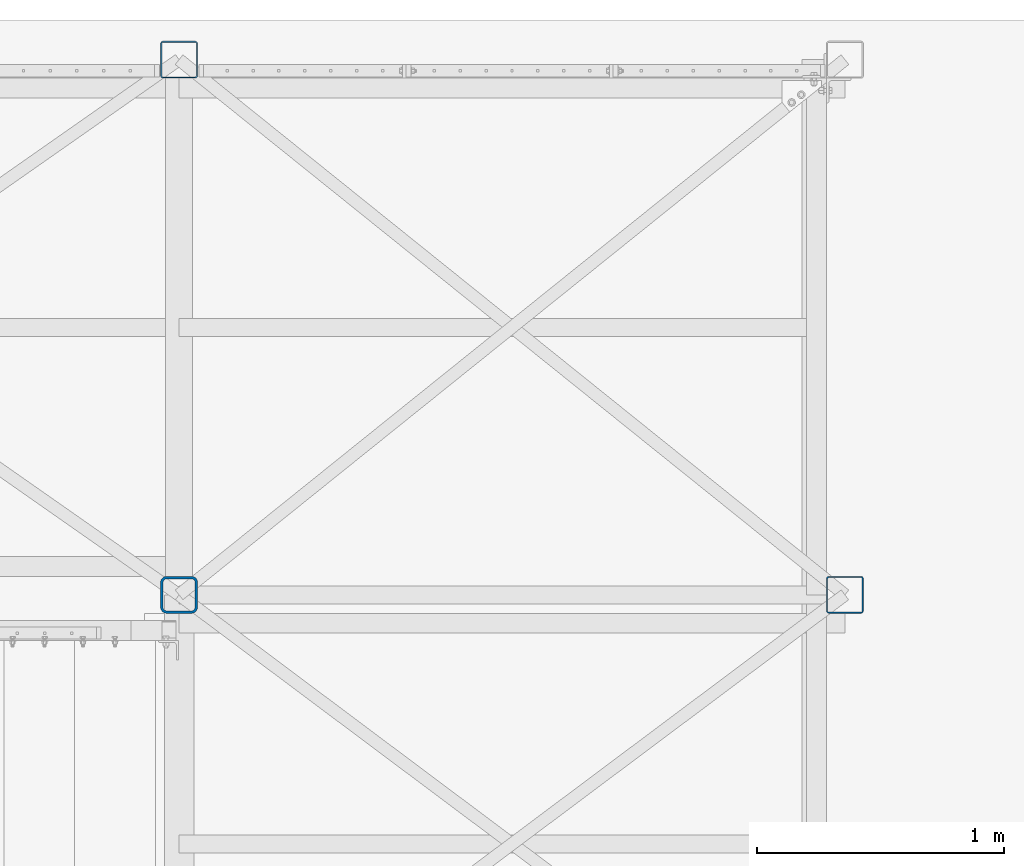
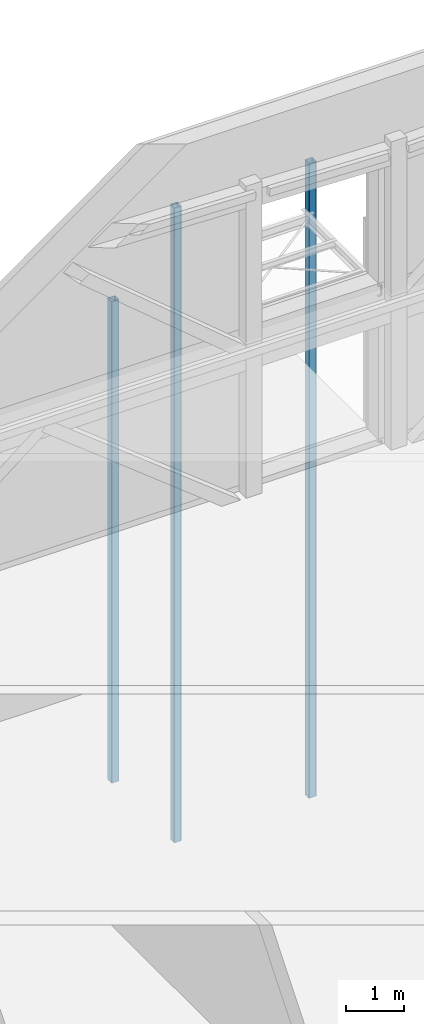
# One storey, part 12 of 78: 3 columns, 3 elements without a shape of their own.
"""IFC2X3 building model written with IfcOpenShell, lengths in millimetres."""

from ifc_helpers import new_model, si_unit, frame, origin_with_axes, origin_2d_with_axis, place, context, subcontext, project, spatial, hollow_rectangle, extrude, material, type_object, element, aggregate, save


model = new_model("IFC2X3")

# Units and contexts
model_context = context("Model", 3, precision=1e-05, world=origin_with_axes())
body_context = subcontext(model_context, "Body", "Model", "MODEL_VIEW")
ifc_project = project(units=[si_unit("LENGTHUNIT", "METRE", prefix="MILLI"), si_unit("AREAUNIT", "SQUARE_METRE"), si_unit("VOLUMEUNIT", "CUBIC_METRE"), si_unit("MASSUNIT", "GRAM", prefix="KILO"), si_unit("TIMEUNIT", "SECOND"), si_unit("PLANEANGLEUNIT", "RADIAN"), si_unit("SOLIDANGLEUNIT", "STERADIAN"), si_unit("THERMODYNAMICTEMPERATUREUNIT", "DEGREE_CELSIUS"), si_unit("LUMINOUSINTENSITYUNIT", "LUMEN")], contexts=[model_context])

# Site, building, storey
site_placement = place(None, origin_with_axes())
site = spatial("IfcSite", under=ifc_project, at=site_placement, Name="Site", CompositionType="ELEMENT")
building_placement = place(site_placement, origin_with_axes())
building = spatial("IfcBuilding", under=site, at=building_placement, Name="Undefined", CompositionType="ELEMENT")
storey_placement = place(building_placement, origin_with_axes())
storey = spatial("IfcBuildingStorey", under=building, at=storey_placement, Name="Undefined", CompositionType="ELEMENT", Elevation=0.0)

# Assembly, column
assembly_1_placement = place(storey_placement, origin_with_axes())
assembly_1 = element("IfcElementAssembly", 1, at=assembly_1_placement, inside=storey, Name="POTEAU", AssemblyPlace="NOTDEFINED", PredefinedType="RIGID_FRAME")
ifc_material = material(Name="STEEL/S275JR")
column_type_1 = type_object("IfcColumnType", Name="TUBE-C-150*150*5", PredefinedType="NOTDEFINED")
column_1_placement = place(assembly_1_placement, frame((4198.57, 30748.0, 147550.04), z_axis=(0.0, 0.0, 1.0), x_axis=(0.0, 1.0, 0.0)))
column_1 = element("IfcColumn", 2, at=column_1_placement, type_object=column_type_1, material=ifc_material, Name="POTEAU", ObjectType="TUBE-C-150*150*5", context=body_context, shape_type="SweptSolid", body=[
    extrude(hollow_rectangle(XDim=150.0, YDim=150.0, WallThickness=5.0, InnerFilletRadius=5.0, OuterFilletRadius=10.0, at=origin_2d_with_axis()), frame((0.0, 0.0, 13450.0), z_axis=(0.0, 0.0, -1.0), x_axis=(0.0, 1.0, 0.0)), (0.0, 0.0, 1.0), 13450.0),
])
aggregate(assembly_1, [column_1])

assembly_2_placement = place(storey_placement, origin_with_axes())
assembly_2 = element("IfcElementAssembly", 3, at=assembly_2_placement, inside=storey, Name="POTEAU", AssemblyPlace="NOTDEFINED", PredefinedType="RIGID_FRAME")
column_2_placement = place(assembly_2_placement, frame((1498.57, 32918.0, 147500.04), z_axis=(0.0, 0.0, 1.0), x_axis=(0.0, 1.0, 0.0)))
column_2 = element("IfcColumn", 4, at=column_2_placement, type_object=column_type_1, material=ifc_material, Name="POTEAU", ObjectType="TUBE-C-150*150*5", context=body_context, shape_type="SweptSolid", body=[
    extrude(hollow_rectangle(XDim=150.0, YDim=150.0, WallThickness=5.0, InnerFilletRadius=5.0, OuterFilletRadius=10.0, at=origin_2d_with_axis()), frame((0.0, 0.0, 10200.0), z_axis=(0.0, 0.0, -1.0), x_axis=(0.0, 1.0, 0.0)), (0.0, 0.0, 1.0), 10200.0),
])
aggregate(assembly_2, [column_2])

assembly_3_placement = place(storey_placement, origin_with_axes())
assembly_3 = element("IfcElementAssembly", 5, at=assembly_3_placement, inside=storey, Name="POTEAU", AssemblyPlace="NOTDEFINED", PredefinedType="RIGID_FRAME")
column_type_2 = type_object("IfcColumnType", Name="TUBE-C-150*150*10", PredefinedType="NOTDEFINED")
column_3_placement = place(assembly_3_placement, frame((1498.57, 30748.0, 147550.04), z_axis=(0.0, 0.0, 1.0), x_axis=(0.0, 1.0, 0.0)))
column_3 = element("IfcColumn", 6, at=column_3_placement, type_object=column_type_2, material=ifc_material, Name="POTEAU", ObjectType="TUBE-C-150*150*10", context=body_context, shape_type="SweptSolid", body=[
    extrude(hollow_rectangle(XDim=150.0, YDim=150.0, WallThickness=10.0, InnerFilletRadius=15.0, OuterFilletRadius=25.0, at=origin_2d_with_axis()), frame((0.0, 0.0, 13450.0), z_axis=(0.0, 0.0, -1.0), x_axis=(0.0, 1.0, 0.0)), (0.0, 0.0, 1.0), 13450.0),
])
aggregate(assembly_3, [column_3])

save(model, "model.ifc")
